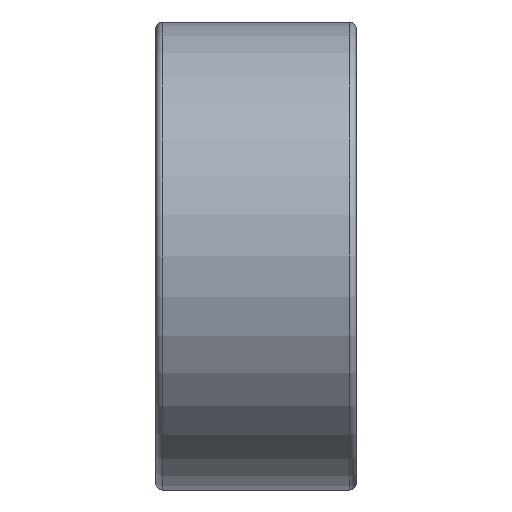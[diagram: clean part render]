
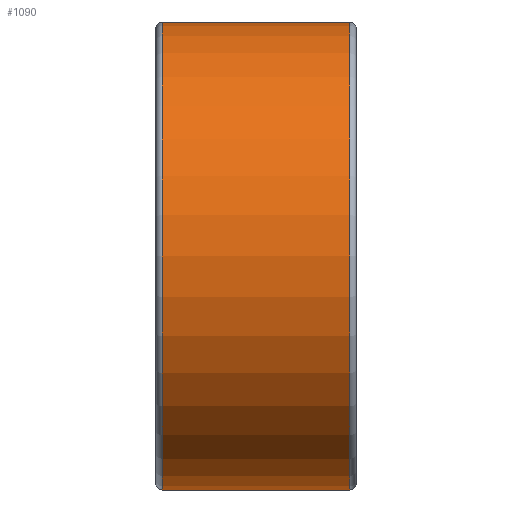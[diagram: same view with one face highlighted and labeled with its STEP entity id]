
A CAD part, left-side view. The second image highlights one B-rep face of the part: STEP entity #1090.
In plain terms, the highlighted cylindrical face has radius 7 mm (diameter 14 mm), a partial arc.
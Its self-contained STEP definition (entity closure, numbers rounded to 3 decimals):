
#39 = CARTESIAN_POINT ( 'NONE',  ( -15.5, -1.3, -7. ) ) ;
#42 = VERTEX_POINT ( 'NONE', #576 ) ;
#50 = CIRCLE ( 'NONE', #457, 7. ) ;
#54 = EDGE_CURVE ( 'NONE', #820, #42, #149, .T. ) ;
#76 = CARTESIAN_POINT ( 'NONE',  ( -15.5, 4.5, -7. ) ) ;
#122 = DIRECTION ( 'NONE',  ( 0., 0., 1. ) ) ;
#149 = LINE ( 'NONE', #606, #451 ) ;
#212 = DIRECTION ( 'NONE',  ( 0., -1., 0. ) ) ;
#265 = CIRCLE ( 'NONE', #1241, 7. ) ;
#272 = ORIENTED_EDGE ( 'NONE', *, *, #916, .T. ) ;
#306 = DIRECTION ( 'NONE',  ( 0., -1., 0. ) ) ;
#348 = DIRECTION ( 'NONE',  ( 0., -1., 0. ) ) ;
#369 = DIRECTION ( 'NONE',  ( 0., -1., 0. ) ) ;
#374 = EDGE_CURVE ( 'NONE', #820, #493, #50, .T. ) ;
#389 = VERTEX_POINT ( 'NONE', #39 ) ;
#451 = VECTOR ( 'NONE', #348, 1000. ) ;
#457 = AXIS2_PLACEMENT_3D ( 'NONE', #806, #369, #122 ) ;
#493 = VERTEX_POINT ( 'NONE', #753 ) ;
#558 = ORIENTED_EDGE ( 'NONE', *, *, #54, .F. ) ;
#576 = CARTESIAN_POINT ( 'NONE',  ( -15.5, -1.3, 7. ) ) ;
#606 = CARTESIAN_POINT ( 'NONE',  ( -15.5, 4.5, 7. ) ) ;
#613 = CARTESIAN_POINT ( 'NONE',  ( -15.5, 4.3, 7. ) ) ;
#679 = DIRECTION ( 'NONE',  ( 0., 0., -1. ) ) ;
#753 = CARTESIAN_POINT ( 'NONE',  ( -15.5, 4.3, -7. ) ) ;
#781 = VECTOR ( 'NONE', #306, 1000. ) ;
#792 = FACE_OUTER_BOUND ( 'NONE', #1164, .T. ) ;
#801 = CARTESIAN_POINT ( 'NONE',  ( -15.5, 4.5, 0. ) ) ;
#806 = CARTESIAN_POINT ( 'NONE',  ( -15.5, 4.3, 0. ) ) ;
#820 = VERTEX_POINT ( 'NONE', #613 ) ;
#830 = ORIENTED_EDGE ( 'NONE', *, *, #1150, .T. ) ;
#868 = ORIENTED_EDGE ( 'NONE', *, *, #374, .T. ) ;
#916 = EDGE_CURVE ( 'NONE', #493, #389, #1183, .T. ) ;
#918 = CARTESIAN_POINT ( 'NONE',  ( -15.5, -1.3, 0. ) ) ;
#1090 = ADVANCED_FACE ( 'NONE', ( #792 ), #1228, .T. ) ;
#1123 = AXIS2_PLACEMENT_3D ( 'NONE', #801, #212, #679 ) ;
#1150 = EDGE_CURVE ( 'NONE', #389, #42, #265, .T. ) ;
#1164 = EDGE_LOOP ( 'NONE', ( #558, #868, #272, #830 ) ) ;
#1183 = LINE ( 'NONE', #76, #781 ) ;
#1228 = CYLINDRICAL_SURFACE ( 'NONE', #1123, 7. ) ;
#1241 = AXIS2_PLACEMENT_3D ( 'NONE', #918, #1373, #1250 ) ;
#1250 = DIRECTION ( 'NONE',  ( 0., 0., 1. ) ) ;
#1373 = DIRECTION ( 'NONE',  ( 0., 1., 0. ) ) ;
